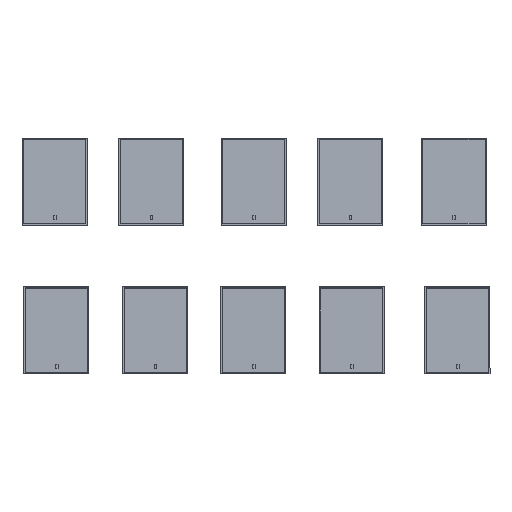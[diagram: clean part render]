
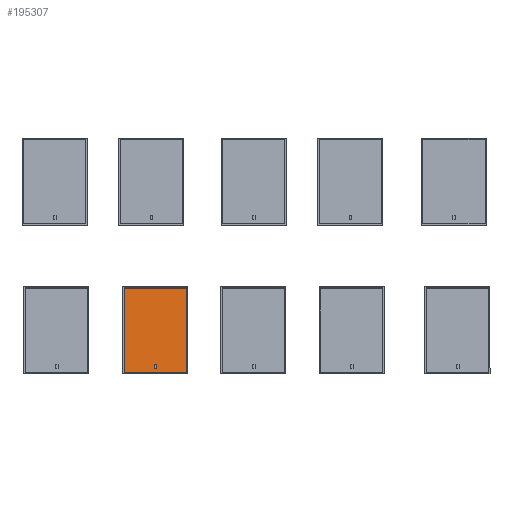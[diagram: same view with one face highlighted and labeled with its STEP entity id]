
A CAD part, top view. The second image highlights one B-rep face of the part: STEP entity #195307.
In plain terms, the highlighted planar face has unit normal (0, 0.087, 0.996).
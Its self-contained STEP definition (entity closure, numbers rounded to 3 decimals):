
#2973 = CARTESIAN_POINT ( 'NONE',  ( 253.993, -391.475, 164.746 ) ) ;
#6999 = CARTESIAN_POINT ( 'NONE',  ( 256.743, -457.522, 170.525 ) ) ;
#10048 = CARTESIAN_POINT ( 'NONE',  ( 308.193, -464.994, 171.179 ) ) ;
#10179 = DIRECTION ( 'NONE',  ( 1., 0., 0. ) ) ;
#13772 = VERTEX_POINT ( 'NONE', #139528 ) ;
#14756 = VERTEX_POINT ( 'NONE', #56586 ) ;
#16339 = AXIS2_PLACEMENT_3D ( 'NONE', #2973, #69310, #68293 ) ;
#21438 = CARTESIAN_POINT ( 'NONE',  ( 199.793, -464.994, 171.179 ) ) ;
#23284 = VECTOR ( 'NONE', #191795, 100. ) ;
#37161 = FACE_BOUND ( 'NONE', #138093, .T. ) ;
#39148 = DIRECTION ( 'NONE',  ( 0., 0.996, -0.087 ) ) ;
#40667 = EDGE_CURVE ( 'NONE', #182250, #13772, #94365, .T. ) ;
#49103 = CARTESIAN_POINT ( 'NONE',  ( 308.193, -317.956, 158.314 ) ) ;
#50604 = VERTEX_POINT ( 'NONE', #179971 ) ;
#50929 = CARTESIAN_POINT ( 'NONE',  ( 251.743, -457.522, 170.525 ) ) ;
#52711 = FACE_OUTER_BOUND ( 'NONE', #176800, .T. ) ;
#54713 = DIRECTION ( 'NONE',  ( 0., 0.996, -0.087 ) ) ;
#56586 = CARTESIAN_POINT ( 'NONE',  ( 308.193, -317.956, 158.314 ) ) ;
#63839 = EDGE_CURVE ( 'NONE', #50604, #14756, #119047, .T. ) ;
#64491 = ORIENTED_EDGE ( 'NONE', *, *, #40667, .F. ) ;
#67278 = ORIENTED_EDGE ( 'NONE', *, *, #71024, .F. ) ;
#68293 = DIRECTION ( 'NONE',  ( 1., 0., 0. ) ) ;
#69310 = DIRECTION ( 'NONE',  ( 0., 0.087, 0.996 ) ) ;
#71024 = EDGE_CURVE ( 'NONE', #91245, #182250, #165805, .T. ) ;
#71851 = ORIENTED_EDGE ( 'NONE', *, *, #150491, .T. ) ;
#73625 = CARTESIAN_POINT ( 'NONE',  ( 251.743, -457.522, 170.525 ) ) ;
#82112 = LINE ( 'NONE', #50929, #138641 ) ;
#84323 = ORIENTED_EDGE ( 'NONE', *, *, #193238, .T. ) ;
#85290 = VECTOR ( 'NONE', #176327, 100. ) ;
#91245 = VERTEX_POINT ( 'NONE', #158523 ) ;
#94365 = LINE ( 'NONE', #98482, #85290 ) ;
#97060 = VERTEX_POINT ( 'NONE', #73625 ) ;
#98482 = CARTESIAN_POINT ( 'NONE',  ( 251.743, -450.549, 169.915 ) ) ;
#100482 = PLANE ( 'NONE',  #16339 ) ;
#100725 = EDGE_CURVE ( 'NONE', #166163, #178454, #122166, .T. ) ;
#102149 = CARTESIAN_POINT ( 'NONE',  ( 256.743, -450.549, 169.915 ) ) ;
#105824 = CARTESIAN_POINT ( 'NONE',  ( 199.793, -317.956, 158.314 ) ) ;
#110059 = ORIENTED_EDGE ( 'NONE', *, *, #146077, .F. ) ;
#119047 = LINE ( 'NONE', #10048, #155795 ) ;
#122166 = LINE ( 'NONE', #186515, #189742 ) ;
#138093 = EDGE_LOOP ( 'NONE', ( #67278, #110059, #165123, #64491 ) ) ;
#138641 = VECTOR ( 'NONE', #204662, 100. ) ;
#139528 = CARTESIAN_POINT ( 'NONE',  ( 251.743, -450.549, 169.915 ) ) ;
#139944 = VECTOR ( 'NONE', #10179, 100. ) ;
#143653 = ORIENTED_EDGE ( 'NONE', *, *, #100725, .T. ) ;
#146077 = EDGE_CURVE ( 'NONE', #97060, #91245, #82112, .T. ) ;
#150491 = EDGE_CURVE ( 'NONE', #178454, #50604, #199104, .T. ) ;
#155795 = VECTOR ( 'NONE', #39148, 100. ) ;
#158466 = DIRECTION ( 'NONE',  ( 0., -0.996, 0.087 ) ) ;
#158523 = CARTESIAN_POINT ( 'NONE',  ( 256.743, -457.522, 170.525 ) ) ;
#159152 = LINE ( 'NONE', #49103, #161295 ) ;
#161295 = VECTOR ( 'NONE', #181891, 100. ) ;
#163703 = ORIENTED_EDGE ( 'NONE', *, *, #63839, .T. ) ;
#165123 = ORIENTED_EDGE ( 'NONE', *, *, #186024, .F. ) ;
#165805 = LINE ( 'NONE', #6999, #192610 ) ;
#165922 = CARTESIAN_POINT ( 'NONE',  ( 199.793, -464.994, 171.179 ) ) ;
#166163 = VERTEX_POINT ( 'NONE', #105824 ) ;
#176327 = DIRECTION ( 'NONE',  ( -1., 0., 0. ) ) ;
#176800 = EDGE_LOOP ( 'NONE', ( #163703, #84323, #143653, #71851 ) ) ;
#178454 = VERTEX_POINT ( 'NONE', #21438 ) ;
#179971 = CARTESIAN_POINT ( 'NONE',  ( 308.193, -464.994, 171.179 ) ) ;
#181891 = DIRECTION ( 'NONE',  ( -1., 0., 0. ) ) ;
#182250 = VERTEX_POINT ( 'NONE', #102149 ) ;
#186024 = EDGE_CURVE ( 'NONE', #13772, #97060, #187699, .T. ) ;
#186515 = CARTESIAN_POINT ( 'NONE',  ( 199.793, -317.956, 158.314 ) ) ;
#187699 = LINE ( 'NONE', #204301, #23284 ) ;
#189742 = VECTOR ( 'NONE', #158466, 100. ) ;
#191795 = DIRECTION ( 'NONE',  ( 0., -0.996, 0.087 ) ) ;
#192610 = VECTOR ( 'NONE', #54713, 100. ) ;
#193238 = EDGE_CURVE ( 'NONE', #14756, #166163, #159152, .T. ) ;
#195307 = ADVANCED_FACE ( 'NONE', ( #52711, #37161 ), #100482, .T. ) ;
#199104 = LINE ( 'NONE', #165922, #139944 ) ;
#204301 = CARTESIAN_POINT ( 'NONE',  ( 251.743, -457.522, 170.525 ) ) ;
#204662 = DIRECTION ( 'NONE',  ( 1., 0., 0. ) ) ;
